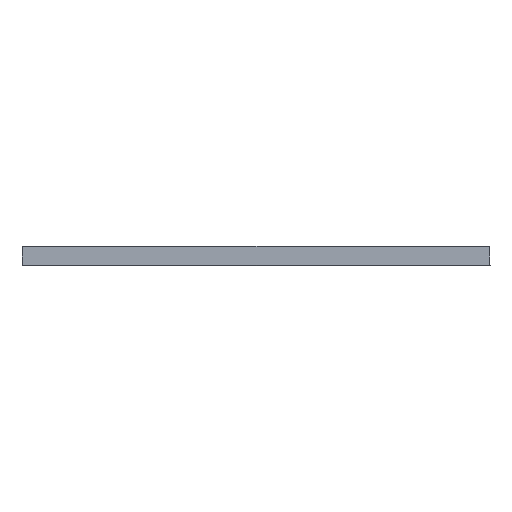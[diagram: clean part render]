
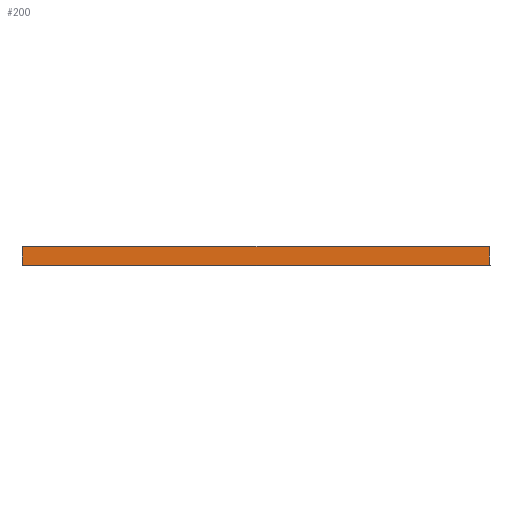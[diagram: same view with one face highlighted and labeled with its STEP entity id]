
A CAD part, front view. The second image highlights one B-rep face of the part: STEP entity #200.
In plain terms, the highlighted planar face has unit normal (0, -1, 0.009).
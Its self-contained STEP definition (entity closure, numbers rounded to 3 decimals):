
#200=ADVANCED_FACE('',(#271),#258,.T.);
#258=PLANE('',#880);
#271=FACE_OUTER_BOUND('',#323,.T.);
#323=EDGE_LOOP('',(#389,#390,#391,#392));
#389=ORIENTED_EDGE('',*,*,#708,.T.);
#390=ORIENTED_EDGE('',*,*,#709,.T.);
#391=ORIENTED_EDGE('',*,*,#710,.T.);
#392=ORIENTED_EDGE('',*,*,#711,.T.);
#635=VERTEX_POINT('',#1115);
#636=VERTEX_POINT('',#1116);
#637=VERTEX_POINT('',#1118);
#638=VERTEX_POINT('',#1120);
#708=EDGE_CURVE('',#635,#636,#831,.T.);
#709=EDGE_CURVE('',#636,#637,#832,.T.);
#710=EDGE_CURVE('',#637,#638,#833,.T.);
#711=EDGE_CURVE('',#638,#635,#834,.T.);
#831=LINE('',#1114,#855);
#832=LINE('',#1117,#856);
#833=LINE('',#1119,#857);
#834=LINE('',#1121,#858);
#855=VECTOR('',#951,1.);
#856=VECTOR('',#952,1.);
#857=VECTOR('',#953,1.);
#858=VECTOR('',#954,1.);
#880=AXIS2_PLACEMENT_3D('',#1122,#955,#956);
#951=DIRECTION('',(-0.009,0.009,1.));
#952=DIRECTION('',(-1.,0.,0.));
#953=DIRECTION('',(-0.009,-0.009,-1.));
#954=DIRECTION('',(1.,0.,0.));
#955=DIRECTION('',(0.,-1.,0.009));
#956=DIRECTION('',(0.,-0.009,-1.));
#1114=CARTESIAN_POINT('',(798.939,-499.939,3.972));
#1115=CARTESIAN_POINT('',(798.991,-499.991,-1.991));
#1116=CARTESIAN_POINT('',(798.721,-499.721,29.009));
#1117=CARTESIAN_POINT('',(0.,-499.721,29.009));
#1118=CARTESIAN_POINT('',(1.279,-499.721,29.009));
#1119=CARTESIAN_POINT('',(1.,-500.,-3.009));
#1120=CARTESIAN_POINT('',(1.009,-499.991,-1.991));
#1121=CARTESIAN_POINT('',(799.,-499.991,-1.991));
#1122=CARTESIAN_POINT('',(0.,-500.,-3.));
